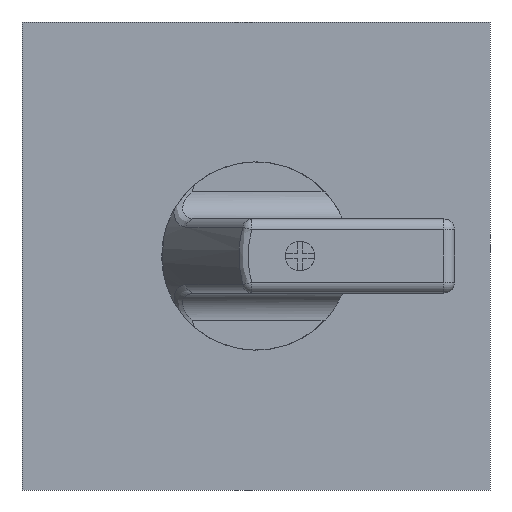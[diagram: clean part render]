
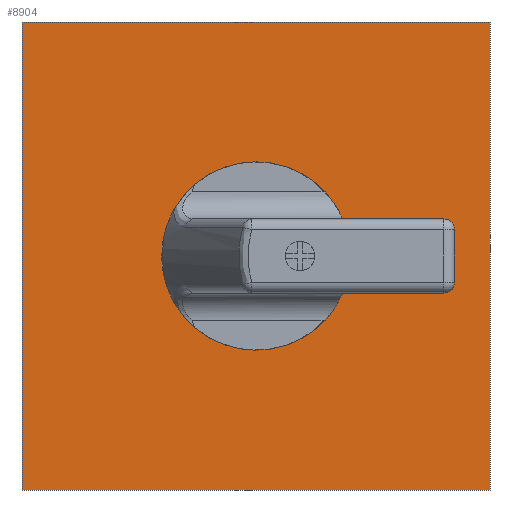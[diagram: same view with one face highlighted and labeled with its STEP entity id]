
A CAD part, front view. The second image highlights one B-rep face of the part: STEP entity #8904.
In plain terms, the highlighted planar face has unit normal (0, -1, 0) as drawn and (0, 1, 0) by its records, which use the part's own axes.
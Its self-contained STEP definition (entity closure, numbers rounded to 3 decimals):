
#1263 = EDGE_LOOP ( 'NONE', ( #7131, #7130 ) ) ;
#1285 = EDGE_LOOP ( 'NONE', ( #7135, #7134, #7133, #7132 ) ) ;
#3126 = AXIS2_PLACEMENT_3D ( 'NONE', #8262, #8260, #8265 ) ;
#3483 = CARTESIAN_POINT ( 'NONE',  ( 0., 9.3, 0. ) ) ;
#3484 = DIRECTION ( 'NONE',  ( 0., 1., 0. ) ) ;
#3485 = DIRECTION ( 'NONE',  ( 0., 0., 1. ) ) ;
#3502 = CARTESIAN_POINT ( 'NONE',  ( -43.5, 9.3, 43.5 ) ) ;
#3503 = CARTESIAN_POINT ( 'NONE',  ( -43.5, 9.3, -43.5 ) ) ;
#3508 = DIRECTION ( 'NONE',  ( 0., 0., 1. ) ) ;
#3509 = DIRECTION ( 'NONE',  ( 1., 0., 0. ) ) ;
#3510 = CARTESIAN_POINT ( 'NONE',  ( 43.5, 9.3, -43.5 ) ) ;
#3511 = DIRECTION ( 'NONE',  ( 0., 0., -1. ) ) ;
#3512 = CARTESIAN_POINT ( 'NONE',  ( -43.5, 9.3, -43.5 ) ) ;
#3513 = DIRECTION ( 'NONE',  ( -1., 0., 0. ) ) ;
#3514 = CARTESIAN_POINT ( 'NONE',  ( 0., 9.3, 0. ) ) ;
#3515 = DIRECTION ( 'NONE',  ( 0., 1., 0. ) ) ;
#3516 = DIRECTION ( 'NONE',  ( 0., 0., 1. ) ) ;
#4530 = CARTESIAN_POINT ( 'NONE',  ( 43.5, 9.3, 43.5 ) ) ;
#4533 = CARTESIAN_POINT ( 'NONE',  ( -43.5, 9.3, 43.5 ) ) ;
#4535 = CARTESIAN_POINT ( 'NONE',  ( 43.5, 9.3, -43.5 ) ) ;
#4540 = CARTESIAN_POINT ( 'NONE',  ( -43.5, 9.3, -43.5 ) ) ;
#4544 = CARTESIAN_POINT ( 'NONE',  ( 0., 9.3, -16.94 ) ) ;
#4545 = CARTESIAN_POINT ( 'NONE',  ( 0., 9.3, 16.94 ) ) ;
#5531 = EDGE_CURVE ( 'NONE', #6656, #6655, #10167, .T. ) ;
#5541 = EDGE_CURVE ( 'NONE', #6650, #6647, #10182, .T. ) ;
#5542 = EDGE_CURVE ( 'NONE', #6647, #6644, #10183, .T. ) ;
#5543 = EDGE_CURVE ( 'NONE', #6644, #6642, #10187, .T. ) ;
#5544 = EDGE_CURVE ( 'NONE', #6642, #6650, #10189, .T. ) ;
#5545 = EDGE_CURVE ( 'NONE', #6655, #6656, #10191, .T. ) ;
#6378 = AXIS2_PLACEMENT_3D ( 'NONE', #3483, #3484, #3485 ) ;
#6383 = AXIS2_PLACEMENT_3D ( 'NONE', #3514, #3515, #3516 ) ;
#6642 = VERTEX_POINT ( 'NONE', #4535 ) ;
#6644 = VERTEX_POINT ( 'NONE', #4530 ) ;
#6647 = VERTEX_POINT ( 'NONE', #4533 ) ;
#6650 = VERTEX_POINT ( 'NONE', #4540 ) ;
#6655 = VERTEX_POINT ( 'NONE', #4544 ) ;
#6656 = VERTEX_POINT ( 'NONE', #4545 ) ;
#7130 = ORIENTED_EDGE ( 'NONE', *, *, #5531, .F. ) ;
#7131 = ORIENTED_EDGE ( 'NONE', *, *, #5545, .F. ) ;
#7132 = ORIENTED_EDGE ( 'NONE', *, *, #5544, .T. ) ;
#7133 = ORIENTED_EDGE ( 'NONE', *, *, #5543, .T. ) ;
#7134 = ORIENTED_EDGE ( 'NONE', *, *, #5542, .T. ) ;
#7135 = ORIENTED_EDGE ( 'NONE', *, *, #5541, .T. ) ;
#8260 = DIRECTION ( 'NONE',  ( 0., 1., 0. ) ) ;
#8262 = CARTESIAN_POINT ( 'NONE',  ( 0., 9.3, 0. ) ) ;
#8264 = PLANE ( 'NONE',  #3126 ) ;
#8265 = DIRECTION ( 'NONE',  ( 0., 0., 1. ) ) ;
#8904 = ADVANCED_FACE ( 'NONE', ( #9513, #9509 ), #8264, .T. ) ;
#9509 = FACE_BOUND ( 'NONE', #1263, .T. ) ;
#9513 = FACE_OUTER_BOUND ( 'NONE', #1285, .T. ) ;
#10167 = CIRCLE ( 'NONE', #6378, 16.94 ) ;
#10182 = LINE ( 'NONE', #3503, #10186 ) ;
#10183 = LINE ( 'NONE', #3502, #10188 ) ;
#10186 = VECTOR ( 'NONE', #3508, 1000. ) ;
#10187 = LINE ( 'NONE', #3510, #10190 ) ;
#10188 = VECTOR ( 'NONE', #3509, 1000. ) ;
#10189 = LINE ( 'NONE', #3512, #10192 ) ;
#10190 = VECTOR ( 'NONE', #3511, 1000. ) ;
#10191 = CIRCLE ( 'NONE', #6383, 16.94 ) ;
#10192 = VECTOR ( 'NONE', #3513, 1000. ) ;
